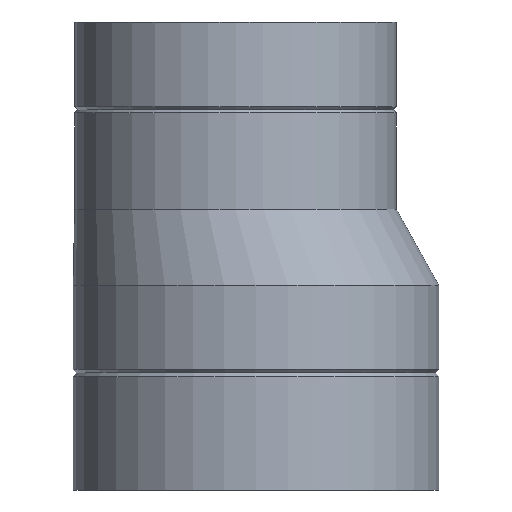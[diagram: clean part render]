
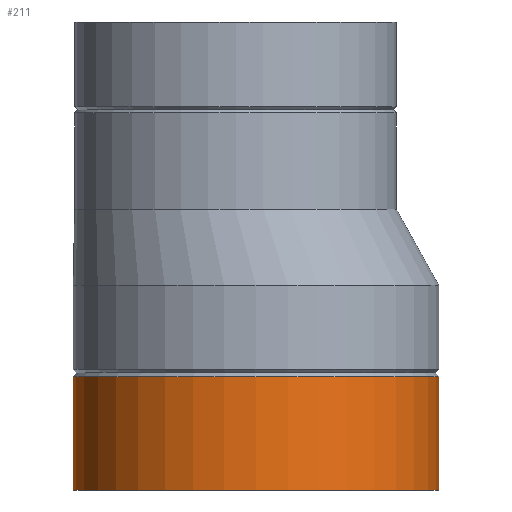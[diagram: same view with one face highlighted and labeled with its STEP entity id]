
A CAD part, front view. The second image highlights one B-rep face of the part: STEP entity #211.
In plain terms, the highlighted cylindrical face has radius 62.5 mm (diameter 125 mm), a full revolution.
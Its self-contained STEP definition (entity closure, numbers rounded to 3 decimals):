
#22=CYLINDRICAL_SURFACE($,#245,62.5);
#32=FACE_BOUND($,#69,.T.);
#48=FACE_OUTER_BOUND($,#68,.T.);
#68=EDGE_LOOP($,(#173));
#69=EDGE_LOOP($,(#174));
#80=CIRCLE($,#226,62.5);
#95=CIRCLE($,#246,62.5);
#100=VERTEX_POINT($,#329);
#115=VERTEX_POINT($,#404);
#120=EDGE_CURVE($,#100,#100,#80,.T.);
#137=EDGE_CURVE($,#115,#115,#95,.T.);
#173=ORIENTED_EDGE($,*,*,#120,.T.);
#174=ORIENTED_EDGE($,*,*,#137,.F.);
#211=ADVANCED_FACE($,(#48,#32),#22,.T.);
#226=AXIS2_PLACEMENT_3D($,#330,#268,#269);
#245=AXIS2_PLACEMENT_3D($,#403,#306,#307);
#246=AXIS2_PLACEMENT_3D($,#405,#308,#309);
#268=DIRECTION('center_axis',(0.,0.,-1.));
#269=DIRECTION('ref_axis',(-1.,0.,0.));
#306=DIRECTION('center_axis',(0.,0.,1.));
#307=DIRECTION('ref_axis',(-1.,0.,0.));
#308=DIRECTION('center_axis',(0.,0.,-1.));
#309=DIRECTION('ref_axis',(-1.,0.,0.));
#329=CARTESIAN_POINT('',(-62.5,0.,38.75));
#330=CARTESIAN_POINT('Origin',(0.,0.,38.75));
#403=CARTESIAN_POINT('Origin',(0.,0.,0.));
#404=CARTESIAN_POINT('',(62.5,0.,0.));
#405=CARTESIAN_POINT('Origin',(0.,0.,0.));
